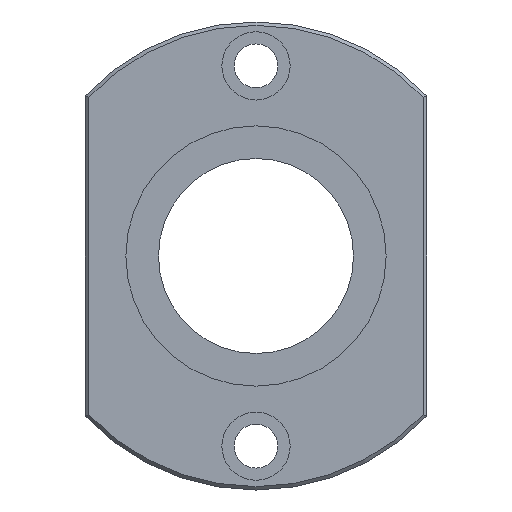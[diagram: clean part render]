
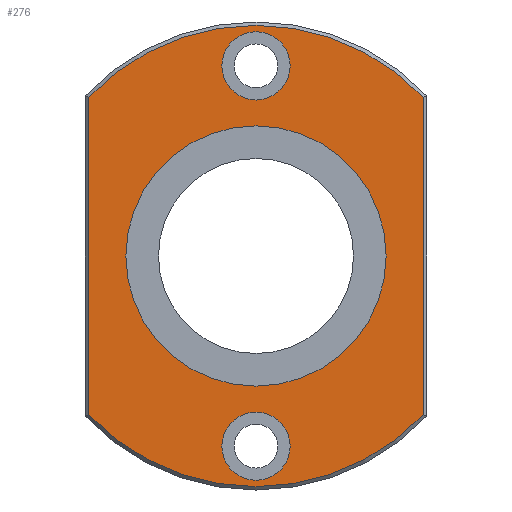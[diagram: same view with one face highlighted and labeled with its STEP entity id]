
A CAD part, left-side view. The second image highlights one B-rep face of the part: STEP entity #276.
In plain terms, the highlighted planar face has unit normal (-1, 0, 0).
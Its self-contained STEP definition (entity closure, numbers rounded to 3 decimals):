
#59=CARTESIAN_POINT('',(0.0,34.3,-32.57));
#60=VERTEX_POINT('',#59);
#68=CARTESIAN_POINT('',(0.0,34.3,32.57));
#69=VERTEX_POINT('',#68);
#70=CARTESIAN_POINT('',(0.0,34.3,-32.57));
#71=DIRECTION('',(0.0,0.0,1.0));
#72=VECTOR('',#71,65.14);
#73=LINE('',#70,#72);
#74=EDGE_CURVE('',#60,#69,#73,.T.);
#101=CARTESIAN_POINT('',(0.0,-34.3,32.57));
#102=VERTEX_POINT('',#101);
#103=CARTESIAN_POINT('',(0.0,0.0,0.0));
#104=DIRECTION('',(1.0,0.0,0.0));
#105=DIRECTION('',(0.0,0.0,1.0));
#106=AXIS2_PLACEMENT_3D('',#103,#104,#105);
#107=CIRCLE('',#106,47.3);
#108=EDGE_CURVE('',#69,#102,#107,.T.);
#134=CARTESIAN_POINT('',(0.0,-34.3,-32.57));
#135=VERTEX_POINT('',#134);
#136=CARTESIAN_POINT('',(0.0,-34.3,32.57));
#137=DIRECTION('',(0.0,0.0,-1.0));
#138=VECTOR('',#137,65.14);
#139=LINE('',#136,#138);
#140=EDGE_CURVE('',#102,#135,#139,.T.);
#165=CARTESIAN_POINT('',(0.0,0.0,0.0));
#166=DIRECTION('',(1.0,0.0,0.0));
#167=DIRECTION('',(0.0,0.0,-1.0));
#168=AXIS2_PLACEMENT_3D('',#165,#166,#167);
#169=CIRCLE('',#168,47.3);
#170=EDGE_CURVE('',#135,#60,#169,.T.);
#232=CARTESIAN_POINT('',(0.0,0.0,28.35));
#233=DIRECTION('',(-1.0,0.0,0.0));
#234=DIRECTION('',(0.0,0.0,1.0));
#235=AXIS2_PLACEMENT_3D('',#232,#233,#234);
#236=PLANE('',#235);
#237=ORIENTED_EDGE('',*,*,#74,.F.);
#238=ORIENTED_EDGE('',*,*,#170,.F.);
#239=ORIENTED_EDGE('',*,*,#140,.F.);
#240=ORIENTED_EDGE('',*,*,#108,.F.);
#241=EDGE_LOOP('',(#237,#238,#239,#240));
#242=FACE_OUTER_BOUND('',#241,.T.);
#243=CARTESIAN_POINT('',(0.0,0.0,26.7));
#244=VERTEX_POINT('',#243);
#245=CARTESIAN_POINT('',(0.0,0.0,0.0));
#246=DIRECTION('',(-1.0,0.0,0.0));
#247=DIRECTION('',(0.0,0.0,1.0));
#248=AXIS2_PLACEMENT_3D('',#245,#246,#247);
#249=CIRCLE('',#248,26.7);
#250=EDGE_CURVE('',#244,#244,#249,.T.);
#251=ORIENTED_EDGE('',*,*,#250,.F.);
#252=EDGE_LOOP('',(#251));
#253=FACE_BOUND('',#252,.T.);
#254=CARTESIAN_POINT('',(0.0,7.,-39.0));
#255=VERTEX_POINT('',#254);
#256=CARTESIAN_POINT('',(0.0,0.,-39.0));
#257=DIRECTION('',(1.0,0.0,0.0));
#258=DIRECTION('',(0.0,1.0,0.0));
#259=AXIS2_PLACEMENT_3D('',#256,#257,#258);
#260=CIRCLE('',#259,7.);
#261=EDGE_CURVE('',#255,#255,#260,.T.);
#262=ORIENTED_EDGE('',*,*,#261,.T.);
#263=EDGE_LOOP('',(#262));
#264=FACE_BOUND('',#263,.T.);
#265=CARTESIAN_POINT('',(0.0,7.,39.0));
#266=VERTEX_POINT('',#265);
#267=CARTESIAN_POINT('',(0.0,0.,39.0));
#268=DIRECTION('',(1.0,0.0,0.0));
#269=DIRECTION('',(0.0,1.0,0.0));
#270=AXIS2_PLACEMENT_3D('',#267,#268,#269);
#271=CIRCLE('',#270,7.);
#272=EDGE_CURVE('',#266,#266,#271,.T.);
#273=ORIENTED_EDGE('',*,*,#272,.T.);
#274=EDGE_LOOP('',(#273));
#275=FACE_BOUND('',#274,.T.);
#276=ADVANCED_FACE('',(#242,#253,#264,#275),#236,.T.);
